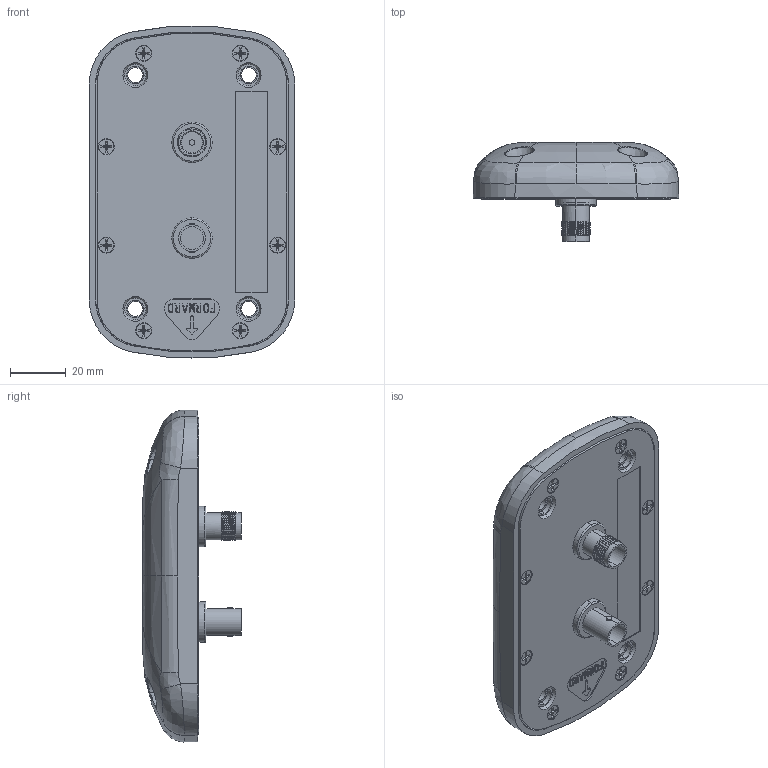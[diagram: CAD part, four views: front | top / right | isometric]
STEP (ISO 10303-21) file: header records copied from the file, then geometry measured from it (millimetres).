
FILE_DESCRIPTION (( 'STEP AP203' ), '1' );
FILE_NAME ('GA57_rev8.STEP', '2006-11-21T22:08:29', ( 'Sean Ernesti' ), ( 'Garmin International' ), 'SwSTEP 2.0', 'SolidWorks 2006104', '' );
FILE_SCHEMA (( 'CONFIG_CONTROL_DESIGN' ));
Products named in the file (1): GA57_rev8
Bounding box: 73.66 x 35.43 x 119.03 mm (x, y, z)
Volume: 138704.2 mm3; surface area: 26589 mm2
Topology: 1 solids, 4 shells, 774 faces, 2018 edges, 1317 vertices
Faces by surface type: plane 407, cylinder 168, bspline 104, cone 83, torus 12
Entity records: 59026 total; most frequent: CARTESIAN_POINT 40574, ORIENTED_EDGE 4036, DIRECTION 3456, EDGE_CURVE 2018, VERTEX_POINT 1317, VECTOR 1164, LINE 1164, AXIS2_PLACEMENT_3D 1146
